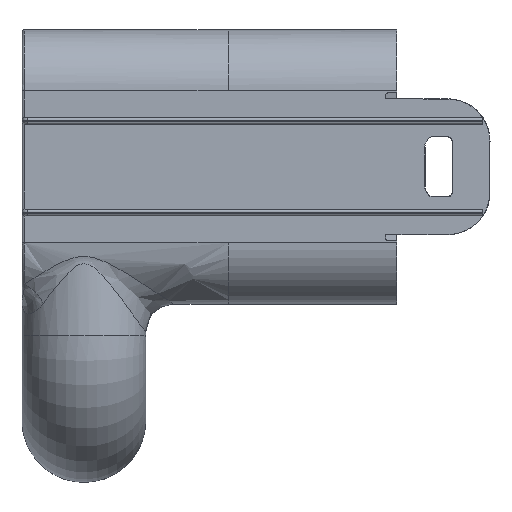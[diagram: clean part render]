
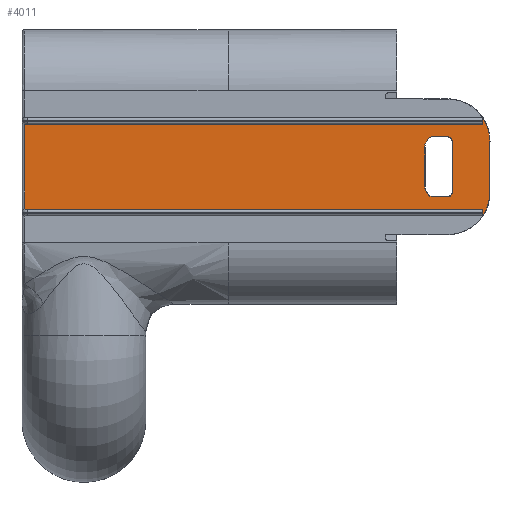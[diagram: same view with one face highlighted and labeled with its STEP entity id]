
A CAD part, top view. The second image highlights one B-rep face of the part: STEP entity #4011.
In plain terms, the highlighted planar face has unit normal (0, 0, 1).
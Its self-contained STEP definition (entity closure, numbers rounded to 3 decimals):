
#141=ELLIPSE('',#4338,7.509,7.5);
#142=ELLIPSE('',#4339,7.509,7.5);
#143=ELLIPSE('',#4340,0.801,0.8);
#144=ELLIPSE('',#4341,2.002,2.);
#145=ELLIPSE('',#4342,2.002,2.);
#146=ELLIPSE('',#4343,0.801,0.8);
#183=LINE('',#5483,#435);
#247=LINE('',#7804,#499);
#255=LINE('',#7832,#507);
#258=LINE('',#7840,#510);
#259=LINE('',#7842,#511);
#270=LINE('',#7879,#522);
#271=LINE('',#7885,#523);
#272=LINE('',#7889,#524);
#273=LINE('',#7893,#525);
#274=LINE('',#7896,#526);
#435=VECTOR('',#4584,1000.);
#499=VECTOR('',#4810,1000.);
#507=VECTOR('',#4834,1000.);
#510=VECTOR('',#4843,1000.);
#511=VECTOR('',#4846,1000.);
#522=VECTOR('',#4877,1000.);
#523=VECTOR('',#4882,1000.);
#524=VECTOR('',#4885,1000.);
#525=VECTOR('',#4888,1000.);
#526=VECTOR('',#4891,1000.);
#905=PLANE('',#4337);
#1022=FACE_BOUND('',#1341,.T.);
#1093=FACE_OUTER_BOUND('',#1340,.T.);
#1340=EDGE_LOOP('',(#3010,#3011,#3012,#3013,#3014,#3015,#3016,#3017));
#1341=EDGE_LOOP('',(#3018,#3019,#3020,#3021,#3022,#3023,#3024,#3025));
#1673=VERTEX_POINT('',#5480);
#1674=VERTEX_POINT('',#5482);
#1817=VERTEX_POINT('',#7803);
#1819=VERTEX_POINT('',#7823);
#1821=VERTEX_POINT('',#7834);
#1822=VERTEX_POINT('',#7838);
#1837=VERTEX_POINT('',#7876);
#1838=VERTEX_POINT('',#7878);
#1839=VERTEX_POINT('',#7881);
#1840=VERTEX_POINT('',#7882);
#1841=VERTEX_POINT('',#7884);
#1842=VERTEX_POINT('',#7886);
#1843=VERTEX_POINT('',#7888);
#1844=VERTEX_POINT('',#7890);
#1845=VERTEX_POINT('',#7892);
#1846=VERTEX_POINT('',#7894);
#2091=EDGE_CURVE('',#1673,#1674,#183,.T.);
#2262=EDGE_CURVE('',#1817,#1674,#247,.T.);
#2272=EDGE_CURVE('',#1819,#1817,#255,.T.);
#2276=EDGE_CURVE('',#1673,#1822,#258,.T.);
#2277=EDGE_CURVE('',#1822,#1821,#259,.T.);
#2294=EDGE_CURVE('',#1837,#1821,#141,.T.);
#2295=EDGE_CURVE('',#1838,#1837,#270,.T.);
#2296=EDGE_CURVE('',#1819,#1838,#142,.T.);
#2297=EDGE_CURVE('',#1839,#1840,#143,.T.);
#2298=EDGE_CURVE('',#1839,#1841,#271,.T.);
#2299=EDGE_CURVE('',#1842,#1841,#144,.T.);
#2300=EDGE_CURVE('',#1843,#1842,#272,.T.);
#2301=EDGE_CURVE('',#1843,#1844,#145,.T.);
#2302=EDGE_CURVE('',#1845,#1844,#273,.T.);
#2303=EDGE_CURVE('',#1845,#1846,#146,.T.);
#2304=EDGE_CURVE('',#1840,#1846,#274,.T.);
#3010=ORIENTED_EDGE('',*,*,#2272,.T.);
#3011=ORIENTED_EDGE('',*,*,#2262,.T.);
#3012=ORIENTED_EDGE('',*,*,#2091,.F.);
#3013=ORIENTED_EDGE('',*,*,#2276,.T.);
#3014=ORIENTED_EDGE('',*,*,#2277,.T.);
#3015=ORIENTED_EDGE('',*,*,#2294,.F.);
#3016=ORIENTED_EDGE('',*,*,#2295,.F.);
#3017=ORIENTED_EDGE('',*,*,#2296,.F.);
#3018=ORIENTED_EDGE('',*,*,#2297,.F.);
#3019=ORIENTED_EDGE('',*,*,#2298,.T.);
#3020=ORIENTED_EDGE('',*,*,#2299,.F.);
#3021=ORIENTED_EDGE('',*,*,#2300,.F.);
#3022=ORIENTED_EDGE('',*,*,#2301,.T.);
#3023=ORIENTED_EDGE('',*,*,#2302,.F.);
#3024=ORIENTED_EDGE('',*,*,#2303,.T.);
#3025=ORIENTED_EDGE('',*,*,#2304,.F.);
#4011=ADVANCED_FACE('',(#1093,#1022),#905,.F.);
#4337=AXIS2_PLACEMENT_3D('',#7875,#4873,#4874);
#4338=AXIS2_PLACEMENT_3D('',#7877,#4875,#4876);
#4339=AXIS2_PLACEMENT_3D('',#7880,#4878,#4879);
#4340=AXIS2_PLACEMENT_3D('',#7883,#4880,#4881);
#4341=AXIS2_PLACEMENT_3D('',#7887,#4883,#4884);
#4342=AXIS2_PLACEMENT_3D('',#7891,#4886,#4887);
#4343=AXIS2_PLACEMENT_3D('',#7895,#4889,#4890);
#4584=DIRECTION('',(0.,1.,0.));
#4810=DIRECTION('',(-1.,0.,0.));
#4834=DIRECTION('',(0.,-1.,0.));
#4843=DIRECTION('',(1.,0.,0.));
#4846=DIRECTION('',(0.,-1.,0.));
#4873=DIRECTION('center_axis',(0.,0.,
-1.));
#4874=DIRECTION('ref_axis',(0.,1.,0.));
#4875=DIRECTION('center_axis',(0.,0.,-1.));
#4876=DIRECTION('ref_axis',(0.708,-0.706,0.));
#4877=DIRECTION('',(0.,-1.,0.));
#4878=DIRECTION('center_axis',(0.,0.,-1.));
#4879=DIRECTION('ref_axis',(0.708,0.706,0.));
#4880=DIRECTION('center_axis',(0.,0.,
1.));
#4881=DIRECTION('ref_axis',(0.708,-0.707,0.));
#4882=DIRECTION('',(-1.,-0.001,0.));
#4883=DIRECTION('center_axis',(0.,0.,
1.));
#4884=DIRECTION('ref_axis',(-0.707,-0.707,0.));
#4885=DIRECTION('',(0.,-1.,0.));
#4886=DIRECTION('center_axis',(0.,0.,
-1.));
#4887=DIRECTION('ref_axis',(-0.707,0.707,0.));
#4888=DIRECTION('',(-1.,0.001,0.));
#4889=DIRECTION('center_axis',(0.,0.,
-1.));
#4890=DIRECTION('ref_axis',(0.707,0.707,0.));
#4891=DIRECTION('',(0.,1.,0.));
#5480=CARTESIAN_POINT('',(0.5,-7.538,0.));
#5482=CARTESIAN_POINT('',(0.5,7.557,0.));
#5483=CARTESIAN_POINT('',(0.5,0.,0.));
#7803=CARTESIAN_POINT('',(81.876,7.557,0.));
#7804=CARTESIAN_POINT('',(33.3,7.557,0.));
#7823=CARTESIAN_POINT('',(81.876,8.671,0.));
#7832=CARTESIAN_POINT('',(81.876,3.778,0.));
#7834=CARTESIAN_POINT('',(81.876,-8.671,0.));
#7838=CARTESIAN_POINT('',(81.876,-7.538,0.));
#7840=CARTESIAN_POINT('',(74.238,-7.538,0.));
#7842=CARTESIAN_POINT('',(81.876,-4.369,0.));
#7875=CARTESIAN_POINT('Origin',(66.6,0.,0.));
#7876=CARTESIAN_POINT('',(83.117,-4.538,0.));
#7877=CARTESIAN_POINT('Origin',(75.613,-4.529,0.));
#7878=CARTESIAN_POINT('',(83.117,4.538,0.));
#7879=CARTESIAN_POINT('',(83.117,-4.521,0.));
#7880=CARTESIAN_POINT('Origin',(75.613,4.529,0.));
#7881=CARTESIAN_POINT('',(75.64,-5.341,0.));
#7882=CARTESIAN_POINT('',(76.44,-4.541,0.));
#7883=CARTESIAN_POINT('Origin',(75.64,-4.54,0.));
#7884=CARTESIAN_POINT('',(72.685,-5.342,0.));
#7885=CARTESIAN_POINT('',(76.6,-5.34,0.));
#7886=CARTESIAN_POINT('',(71.557,-3.543,0.));
#7887=CARTESIAN_POINT('Origin',(73.558,-3.541,0.));
#7888=CARTESIAN_POINT('',(71.557,3.543,0.));
#7889=CARTESIAN_POINT('',(71.557,3.543,0.));
#7890=CARTESIAN_POINT('',(72.685,5.342,0.));
#7891=CARTESIAN_POINT('Origin',(73.558,3.541,0.));
#7892=CARTESIAN_POINT('',(75.641,5.341,0.));
#7893=CARTESIAN_POINT('',(76.6,5.34,0.));
#7894=CARTESIAN_POINT('',(76.44,4.541,0.));
#7895=CARTESIAN_POINT('Origin',(75.64,4.54,0.));
#7896=CARTESIAN_POINT('',(76.44,0.,0.));
